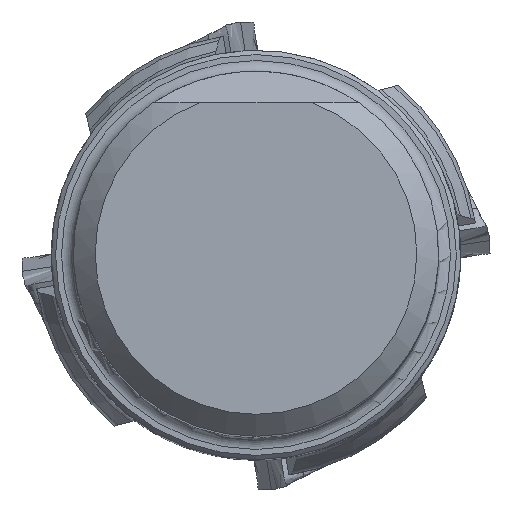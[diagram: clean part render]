
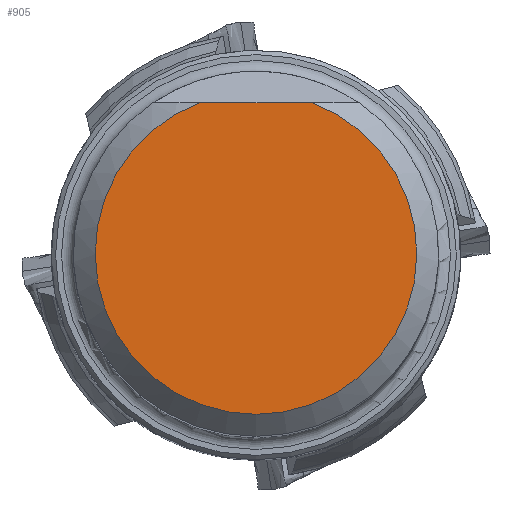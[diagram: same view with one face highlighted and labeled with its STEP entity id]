
A CAD part, top view. The second image highlights one B-rep face of the part: STEP entity #905.
In plain terms, the highlighted planar face has unit normal (0, 0, 1).
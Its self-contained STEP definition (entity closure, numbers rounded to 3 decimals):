
#310=PLANE('',#5313);
#429=LINE('',#8100,#609);
#609=VECTOR('',#5987,1.);
#905=ADVANCED_FACE('',(#1238),#310,.F.);
#1238=FACE_OUTER_BOUND('',#1501,.T.);
#1501=EDGE_LOOP('',(#2443,#2444));
#2130=CIRCLE('',#5312,10.997);
#2443=ORIENTED_EDGE('',*,*,#4372,.F.);
#2444=ORIENTED_EDGE('',*,*,#4373,.T.);
#3837=VERTEX_POINT('',#8098);
#3838=VERTEX_POINT('',#8099);
#4372=EDGE_CURVE('',#3837,#3838,#2130,.T.);
#4373=EDGE_CURVE('',#3837,#3838,#429,.T.);
#5312=AXIS2_PLACEMENT_3D('',#8097,#5985,#5986);
#5313=AXIS2_PLACEMENT_3D('',#8101,#5988,#5989);
#5985=DIRECTION('',(0.,0.,-1.));
#5986=DIRECTION('',(-1.,0.,0.));
#5987=DIRECTION('',(-1.,0.,0.));
#5988=DIRECTION('',(0.,0.,-1.));
#5989=DIRECTION('',(-1.,0.,0.));
#8097=CARTESIAN_POINT('',(0.,0.,
0.012));
#8098=CARTESIAN_POINT('',(3.843,10.303,0.012));
#8099=CARTESIAN_POINT('',(-3.843,10.303,0.012));
#8100=CARTESIAN_POINT('',(0.,10.303,0.012));
#8101=CARTESIAN_POINT('',(0.,0.,
0.012));
